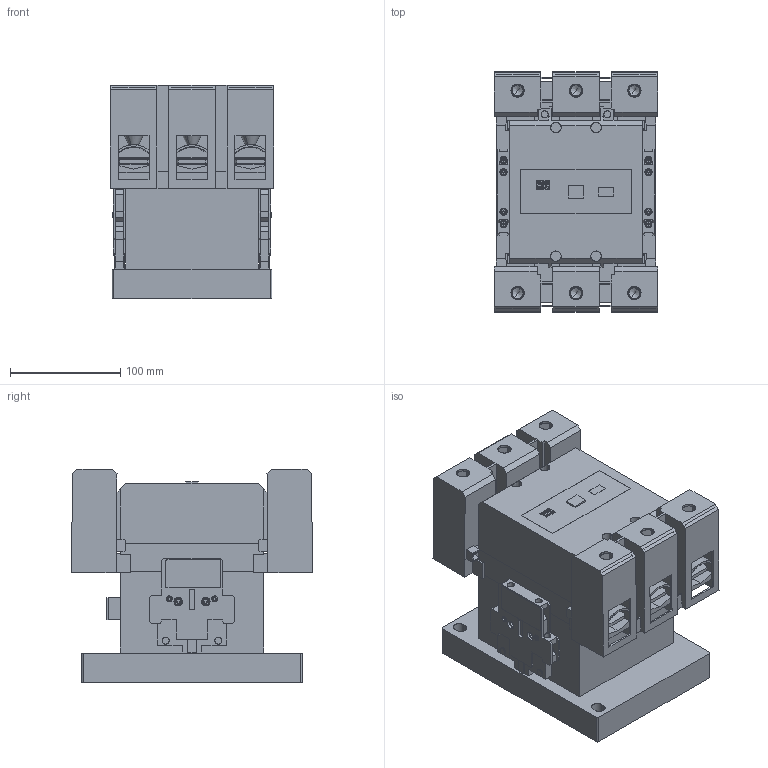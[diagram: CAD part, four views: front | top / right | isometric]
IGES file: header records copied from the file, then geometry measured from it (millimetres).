
Start section: SolidWorks IGES file using analytic representation for surfaces
Global section: file name: Q:\GROUPS\BR_SC_JGS_WA_TECNICO\ENG\Usuarios\Rodrigob\conversão\contatores\Produto\CWM250+TB300\CWM250+TB300.IGS; native system: SolidWorks 2012; preprocessor: SolidWorks 2012; author: rodrigob; date: 130903.135107; units: millimetre
Bounding box: 148.45 x 218.57 x 193.82 mm (x, y, z)
Surface area: 560369.6 mm2 (no closed solid volume)
Topology: 0 solids, 0 shells, 1950 faces, 19528 edges, 19516 vertices
Faces by surface type: bspline 1398, revolution 552
